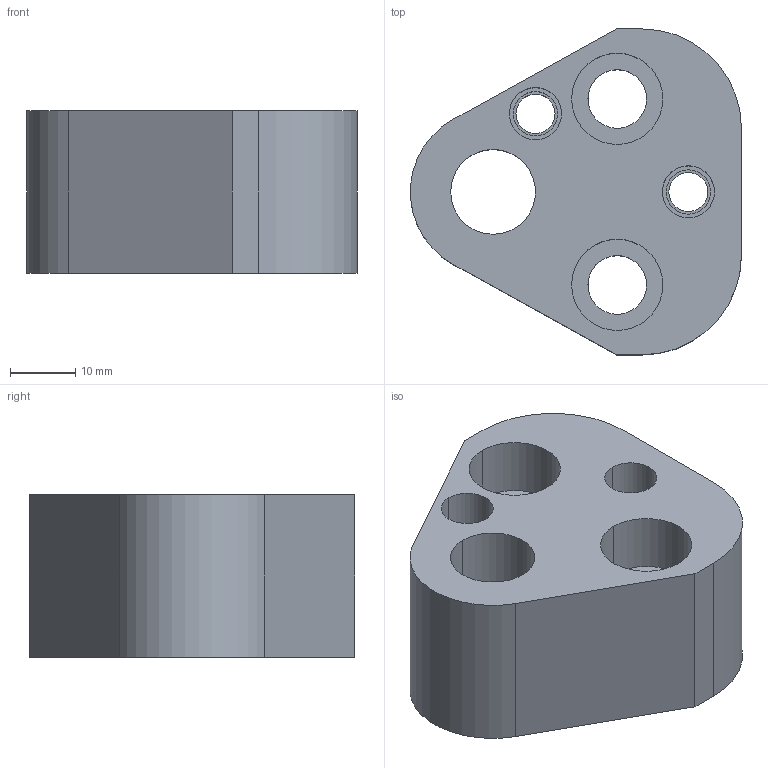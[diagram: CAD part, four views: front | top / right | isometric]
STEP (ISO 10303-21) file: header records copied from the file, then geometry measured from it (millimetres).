
FILE_DESCRIPTION(/* description */ (''),/* implementation_level */ '2;1');
FILE_NAME(/* name */ '3d_25crn-a13_03118_r00.stp',/* time_stamp */ '2011-01-10T14:17:55+09:00',/* author */ ('MISUMI'),/* organization */ (''),/* preprocessor_version */ 'ST-DEVELOPER v11',/* originating_system */ 'UGS - NX 5.0',/* authorisation */ '');
FILE_SCHEMA (('CONFIG_CONTROL_DESIGN'));
Length unit declared in the file: millimetre
Products named in the file (1): 3d_25crn-a13_03118_r00
Bounding box: 50.76 x 50 x 25 mm (x, y, z)
Volume: 36151.7 mm3; surface area: 10978.7 mm2
Topology: 1 solids, 1 shells, 43 faces, 100 edges, 66 vertices
Faces by surface type: cylinder 27, plane 14, cone 2
Entity records: 1360 total; most frequent: DIRECTION 244, CARTESIAN_POINT 210, ORIENTED_EDGE 200, EDGE_CURVE 100, AXIS2_PLACEMENT_3D 100, VERTEX_POINT 66, EDGE_LOOP 60, CIRCLE 56
